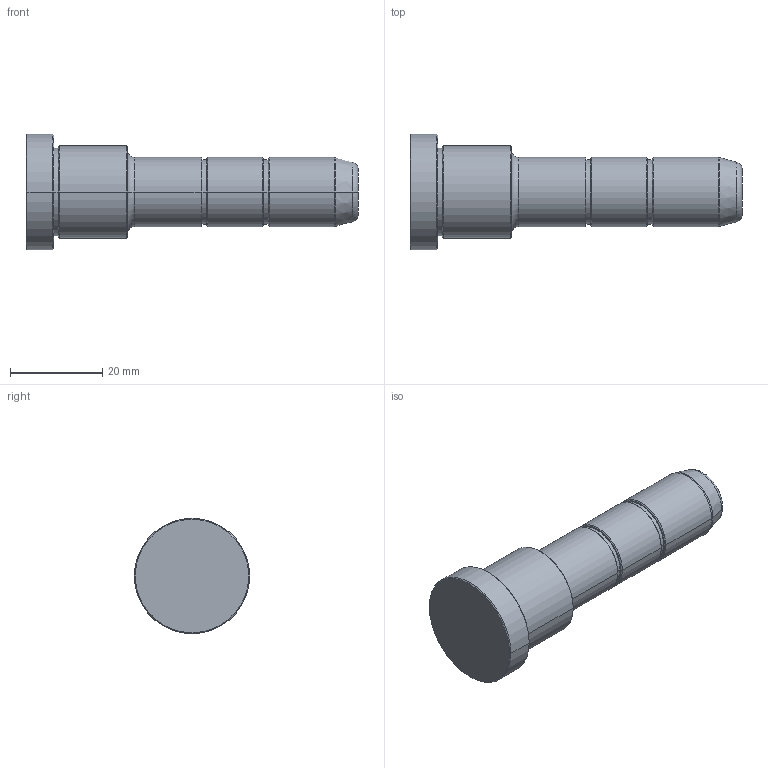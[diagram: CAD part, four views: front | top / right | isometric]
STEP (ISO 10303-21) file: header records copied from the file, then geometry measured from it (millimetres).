
FILE_DESCRIPTION (( 'STEP AP214' ), '1' );
FILE_NAME ('R01_022x15x050.STEP', '2015-03-05T14:02:51', ( 'TGL' ), ( '' ), 'SwSTEP 2.0', 'SolidWorks 2011', '' );
FILE_SCHEMA (( 'AUTOMOTIVE_DESIGN' ));
Length unit declared in the file: millimetre
Products named in the file (1): R01_022x15x050
Bounding box: 72 x 25 x 25 mm (x, y, z)
Volume: 16587.7 mm3; surface area: 4787.6 mm2
Topology: 1 solids, 1 shells, 49 faces, 96 edges, 56 vertices
Faces by surface type: cone 18, cylinder 16, plane 9, torus 6
Entity records: 1426 total; most frequent: DIRECTION 258, CARTESIAN_POINT 202, ORIENTED_EDGE 192, AXIS2_PLACEMENT_3D 112, EDGE_CURVE 96, CIRCLE 62, VERTEX_POINT 56, EDGE_LOOP 56
